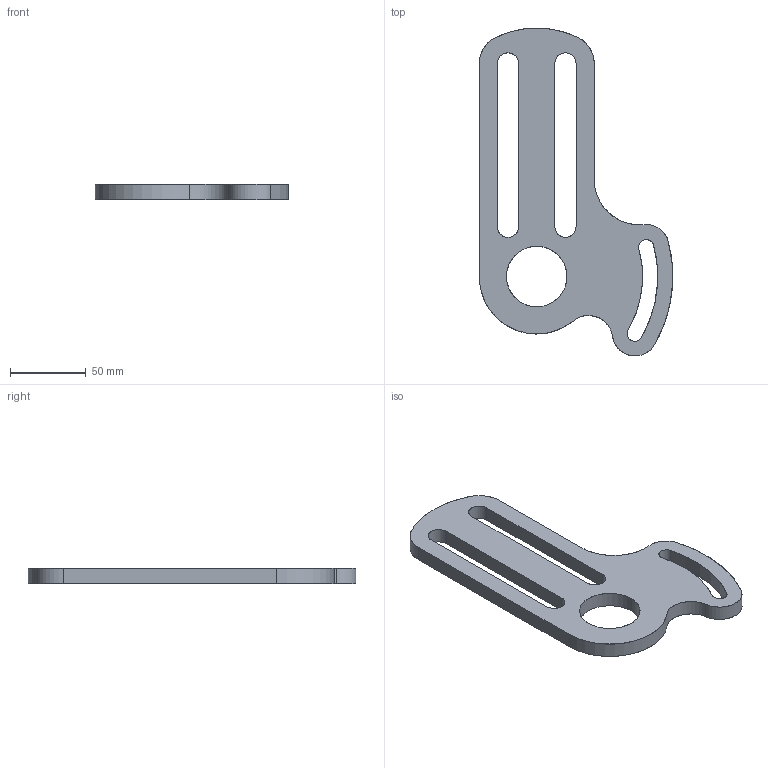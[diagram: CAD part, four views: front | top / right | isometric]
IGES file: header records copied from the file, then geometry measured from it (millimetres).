
Start section: SolidWorks IGES file using analytic representation for surfaces
Global section: file name: E:\Nouveau dossier\tarek\mécaniquee\L3GMCFM\TP0\EX6.IGS; native system: SolidWorks 2013; preprocessor: SolidWorks 2013; author: LENOVO; date: 180920.174721; units: millimetre
Bounding box: 127.95 x 216.82 x 10 mm (x, y, z)
Surface area: 40561.6 mm2 (no closed solid volume)
Topology: 0 solids, 0 shells, 29 faces, 622 edges, 622 vertices
Faces by surface type: revolution 21, bspline 8
